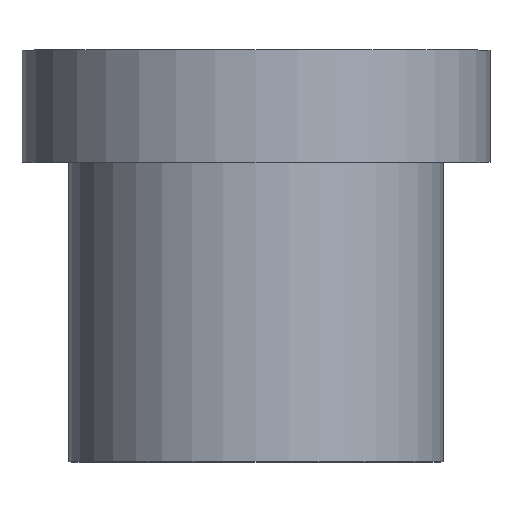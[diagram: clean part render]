
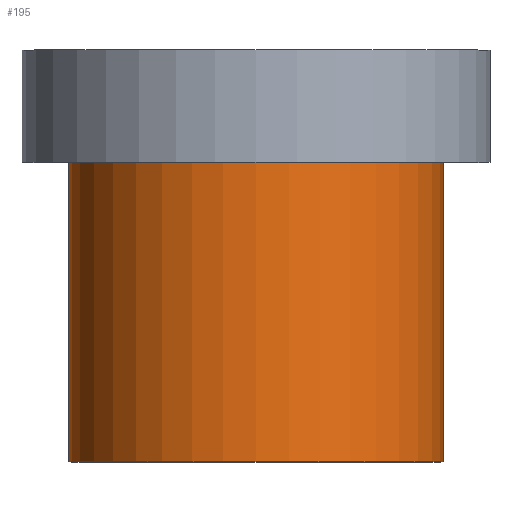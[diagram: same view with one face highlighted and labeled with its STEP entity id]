
A CAD part, top view. The second image highlights one B-rep face of the part: STEP entity #195.
In plain terms, the highlighted cylindrical face has radius 10 mm (diameter 20 mm), a full revolution.
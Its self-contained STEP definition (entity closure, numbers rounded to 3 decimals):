
#32=ORIENTED_EDGE('',*,*,#50,.T.);
#33=ORIENTED_EDGE('',*,*,#49,.F.);
#49=EDGE_CURVE('',#59,#59,#69,.T.);
#50=EDGE_CURVE('',#60,#60,#70,.T.);
#59=VERTEX_POINT('',#280);
#60=VERTEX_POINT('',#283);
#69=CIRCLE('',#213,10.);
#70=CIRCLE('',#215,10.);
#82=EDGE_LOOP('',(#32));
#83=EDGE_LOOP('',(#33));
#102=FACE_BOUND('',#82,.T.);
#103=FACE_BOUND('',#83,.T.);
#117=CYLINDRICAL_SURFACE('',#214,10.);
#195=ADVANCED_FACE('',(#102,#103),#117,.T.);
#213=AXIS2_PLACEMENT_3D('',#279,#241,#242);
#214=AXIS2_PLACEMENT_3D('',#281,#243,#244);
#215=AXIS2_PLACEMENT_3D('',#282,#245,#246);
#241=DIRECTION('',(0.,-1.,0.));
#242=DIRECTION('',(0.,0.,-1.));
#243=DIRECTION('',(0.,-1.,0.));
#244=DIRECTION('',(0.,0.,-1.));
#245=DIRECTION('',(0.,-1.,0.));
#246=DIRECTION('',(0.,0.,-1.));
#279=CARTESIAN_POINT('',(0.,0.,0.));
#280=CARTESIAN_POINT('',(0.,0.,-10.));
#281=CARTESIAN_POINT('',(0.,0.,0.));
#282=CARTESIAN_POINT('',(0.,16.,0.));
#283=CARTESIAN_POINT('',(0.,16.,-10.));
